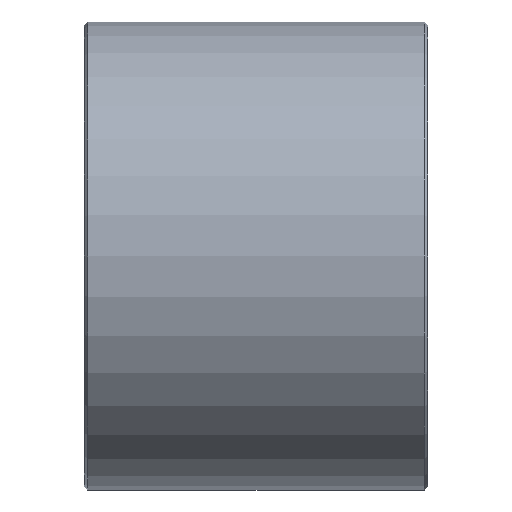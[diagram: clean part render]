
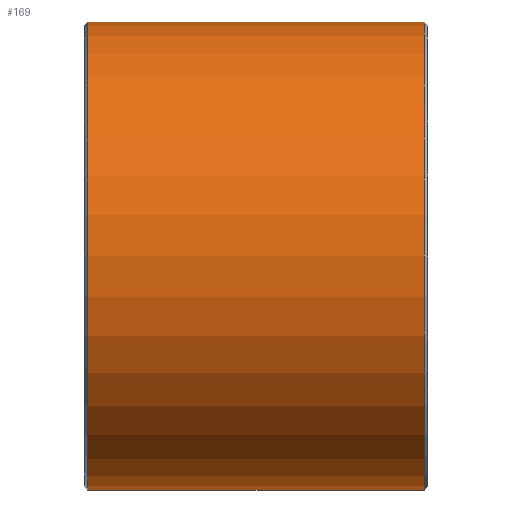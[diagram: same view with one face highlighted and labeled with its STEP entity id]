
A CAD part, left-side view. The second image highlights one B-rep face of the part: STEP entity #169.
In plain terms, the highlighted cylindrical face has radius 37.5 mm (diameter 75 mm), a partial arc.
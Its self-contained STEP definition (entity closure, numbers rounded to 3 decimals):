
#21 = ORIENTED_EDGE ( 'NONE', *, *, #1001, .T. ) ;
#40 = ORIENTED_EDGE ( 'NONE', *, *, #1258, .F. ) ;
#136 = CIRCLE ( 'NONE', #714, 37.5 ) ;
#169 = ADVANCED_FACE ( 'NONE', ( #205 ), #913, .T. ) ;
#179 = CARTESIAN_POINT ( 'NONE',  ( 0., -53., 37.5 ) ) ;
#202 = AXIS2_PLACEMENT_3D ( 'NONE', #303, #1085, #1070 ) ;
#205 = FACE_OUTER_BOUND ( 'NONE', #840, .T. ) ;
#212 = AXIS2_PLACEMENT_3D ( 'NONE', #1012, #423, #632 ) ;
#303 = CARTESIAN_POINT ( 'NONE',  ( 0., -53., 0. ) ) ;
#309 = ORIENTED_EDGE ( 'NONE', *, *, #689, .T. ) ;
#400 = LINE ( 'NONE', #408, #1268 ) ;
#408 = CARTESIAN_POINT ( 'NONE',  ( 0., 65.513, -37.5 ) ) ;
#423 = DIRECTION ( 'NONE',  ( 0., 1., 0. ) ) ;
#447 = EDGE_CURVE ( 'NONE', #1193, #1074, #136, .T. ) ;
#498 = VECTOR ( 'NONE', #1047, 1000. ) ;
#610 = DIRECTION ( 'NONE',  ( 0., -1., 0. ) ) ;
#632 = DIRECTION ( 'NONE',  ( 0., 0., 1. ) ) ;
#676 = CARTESIAN_POINT ( 'NONE',  ( 0., -53., -37.5 ) ) ;
#689 = EDGE_CURVE ( 'NONE', #897, #1193, #1067, .T. ) ;
#714 = AXIS2_PLACEMENT_3D ( 'NONE', #800, #610, #1206 ) ;
#749 = CARTESIAN_POINT ( 'NONE',  ( 0., 1., -37.5 ) ) ;
#759 = CARTESIAN_POINT ( 'NONE',  ( 0., 1., 37.5 ) ) ;
#784 = CIRCLE ( 'NONE', #202, 37.5 ) ;
#800 = CARTESIAN_POINT ( 'NONE',  ( 0., 1., 0. ) ) ;
#840 = EDGE_LOOP ( 'NONE', ( #40, #21, #309, #857 ) ) ;
#857 = ORIENTED_EDGE ( 'NONE', *, *, #447, .T. ) ;
#897 = VERTEX_POINT ( 'NONE', #179 ) ;
#913 = CYLINDRICAL_SURFACE ( 'NONE', #212, 37.5 ) ;
#960 = VERTEX_POINT ( 'NONE', #676 ) ;
#1001 = EDGE_CURVE ( 'NONE', #960, #897, #784, .T. ) ;
#1012 = CARTESIAN_POINT ( 'NONE',  ( 0., 65.513, 0. ) ) ;
#1047 = DIRECTION ( 'NONE',  ( 0., 1., 0. ) ) ;
#1067 = LINE ( 'NONE', #1137, #498 ) ;
#1070 = DIRECTION ( 'NONE',  ( 0., 0., -1. ) ) ;
#1074 = VERTEX_POINT ( 'NONE', #749 ) ;
#1084 = DIRECTION ( 'NONE',  ( 0., 1., 0. ) ) ;
#1085 = DIRECTION ( 'NONE',  ( 0., 1., 0. ) ) ;
#1137 = CARTESIAN_POINT ( 'NONE',  ( 0., 65.513, 37.5 ) ) ;
#1193 = VERTEX_POINT ( 'NONE', #759 ) ;
#1206 = DIRECTION ( 'NONE',  ( 0., 0., 1. ) ) ;
#1258 = EDGE_CURVE ( 'NONE', #960, #1074, #400, .T. ) ;
#1268 = VECTOR ( 'NONE', #1084, 1000. ) ;
